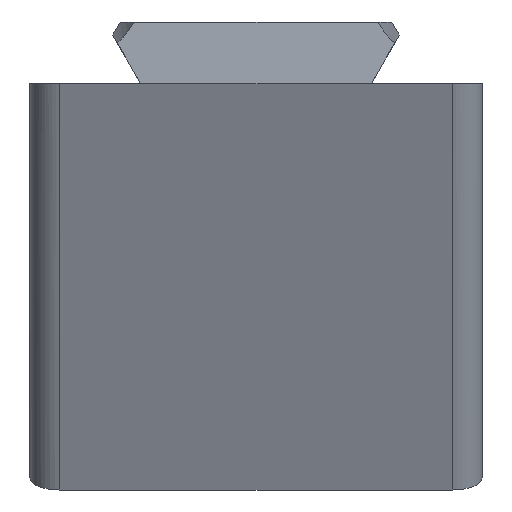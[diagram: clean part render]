
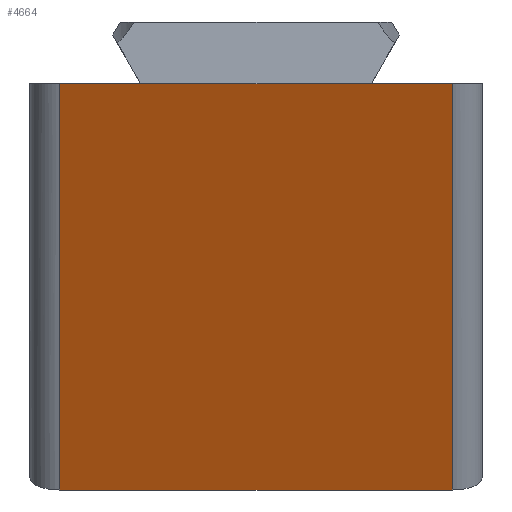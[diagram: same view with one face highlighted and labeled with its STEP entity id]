
A CAD part, left-side view. The second image highlights one B-rep face of the part: STEP entity #4664.
In plain terms, the highlighted planar face has unit normal (-0.913, 0, -0.407).
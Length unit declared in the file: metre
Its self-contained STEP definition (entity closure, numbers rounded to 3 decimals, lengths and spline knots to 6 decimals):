
#624=ORIENTED_EDGE('',*,*,#1818,.T.);
#625=ORIENTED_EDGE('',*,*,#2000,.T.);
#626=ORIENTED_EDGE('',*,*,#1750,.F.);
#627=ORIENTED_EDGE('',*,*,#2001,.T.);
#628=ORIENTED_EDGE('',*,*,#1832,.T.);
#629=ORIENTED_EDGE('',*,*,#1996,.T.);
#1750=EDGE_CURVE('',#2454,#2455,#2923,.T.);
#1818=EDGE_CURVE('',#2513,#2520,#2966,.T.);
#1832=EDGE_CURVE('',#2531,#2505,#2973,.T.);
#1996=EDGE_CURVE('',#2505,#2513,#3063,.T.);
#2000=EDGE_CURVE('',#2520,#2455,#3064,.T.);
#2001=EDGE_CURVE('',#2454,#2531,#3065,.F.);
#2454=VERTEX_POINT('',#6460);
#2455=VERTEX_POINT('',#6462);
#2505=VERTEX_POINT('',#6569);
#2513=VERTEX_POINT('',#6587);
#2520=VERTEX_POINT('',#6604);
#2531=VERTEX_POINT('',#6630);
#2923=LINE('',#6461,#3409);
#2966=LINE('',#6605,#3452);
#2973=LINE('',#6629,#3459);
#3063=LINE('',#7031,#3549);
#3064=LINE('',#7041,#3550);
#3065=LINE('',#7042,#3551);
#3409=VECTOR('',#5279,1.);
#3452=VECTOR('',#5392,1.);
#3459=VECTOR('',#5413,1.);
#3549=VECTOR('',#5585,1.);
#3550=VECTOR('',#5600,1.);
#3551=VECTOR('',#5601,1.);
#3934=EDGE_LOOP('',(#624,#625,#626,#627,#628,#629));
#4232=FACE_BOUND('',#3934,.T.);
#4503=PLANE('',#5010);
#4664=ADVANCED_FACE('',(#4232),#4503,.F.);
#5010=AXIS2_PLACEMENT_3D('',#7040,#5598,#5599);
#5279=DIRECTION('',(0.,1.,0.));
#5392=DIRECTION('',(0.,1.,0.));
#5413=DIRECTION('',(0.,1.,0.));
#5585=DIRECTION('',(0.,1.,0.));
#5598=DIRECTION('',(0.914,0.,0.407));
#5599=DIRECTION('',(0.407,0.,-0.914));
#5600=DIRECTION('',(0.407,0.,-0.914));
#5601=DIRECTION('',(0.407,0.,-0.914));
#6460=CARTESIAN_POINT('',(0.011994,-0.013,-0.026938));
#6461=CARTESIAN_POINT('',(0.011994,-0.015,-0.026938));
#6462=CARTESIAN_POINT('',(0.011994,0.013,-0.026938));
#6569=CARTESIAN_POINT('',(0.,-0.007695,0.));
#6587=CARTESIAN_POINT('',(0.,0.007695,0.));
#6604=CARTESIAN_POINT('',(0.,0.013,0.));
#6605=CARTESIAN_POINT('',(0.,-0.015,0.));
#6629=CARTESIAN_POINT('',(0.,-0.015,0.));
#6630=CARTESIAN_POINT('',(0.,-0.013,0.));
#7031=CARTESIAN_POINT('',(0.,0.,0.));
#7040=CARTESIAN_POINT('',(0.005997,-0.015,-0.013469));
#7041=CARTESIAN_POINT('',(0.005997,0.013,-0.013469));
#7042=CARTESIAN_POINT('',(0.,-0.013,0.));
